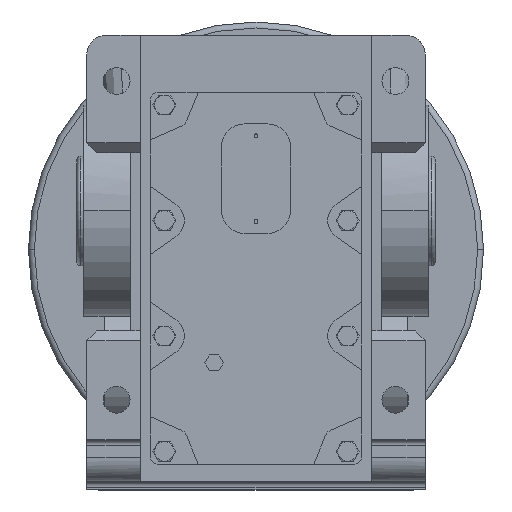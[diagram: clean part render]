
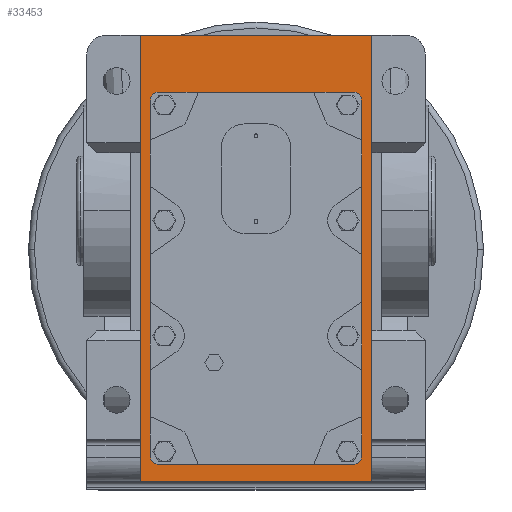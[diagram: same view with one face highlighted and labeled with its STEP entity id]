
A CAD part, top view. The second image highlights one B-rep face of the part: STEP entity #33453.
In plain terms, the highlighted planar face has unit normal (0, 0, 1).
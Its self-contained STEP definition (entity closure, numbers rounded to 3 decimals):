
#5630 = EDGE_CURVE ( 'NONE', #20544, #20666, #8605, .T. ) ;
#5632 = EDGE_CURVE ( 'NONE', #20544, #20556, #8595, .T. ) ;
#5638 = EDGE_CURVE ( 'NONE', #20508, #20556, #8584, .T. ) ;
#5640 = EDGE_CURVE ( 'NONE', #20508, #20541, #8581, .T. ) ;
#5646 = EDGE_CURVE ( 'NONE', #20657, #20541, #8577, .T. ) ;
#5648 = EDGE_CURVE ( 'NONE', #20657, #20540, #8571, .T. ) ;
#5654 = EDGE_CURVE ( 'NONE', #20664, #20540, #8562, .T. ) ;
#5656 = EDGE_CURVE ( 'NONE', #20664, #20666, #8559, .T. ) ;
#8558 = VECTOR ( 'NONE', #32608, 1000. ) ;
#8559 = LINE ( 'NONE', #32585, #8558 ) ;
#8562 = CIRCLE ( 'NONE', #27785, 4. ) ;
#8570 = VECTOR ( 'NONE', #32579, 1000. ) ;
#8571 = LINE ( 'NONE', #32553, #8570 ) ;
#8577 = CIRCLE ( 'NONE', #27784, 4. ) ;
#8580 = VECTOR ( 'NONE', #32511, 1000. ) ;
#8581 = LINE ( 'NONE', #32503, #8580 ) ;
#8584 = CIRCLE ( 'NONE', #27783, 4. ) ;
#8592 = VECTOR ( 'NONE', #32477, 1000. ) ;
#8595 = LINE ( 'NONE', #32457, #8592 ) ;
#8605 = CIRCLE ( 'NONE', #27782, 4. ) ;
#10186 = EDGE_CURVE ( 'NONE', #20705, #20716, #23512, .T. ) ;
#10190 = EDGE_CURVE ( 'NONE', #20903, #20705, #23508, .T. ) ;
#10193 = EDGE_CURVE ( 'NONE', #20716, #21029, #23506, .T. ) ;
#10195 = EDGE_CURVE ( 'NONE', #21029, #20903, #23504, .T. ) ;
#10947 = EDGE_LOOP ( 'NONE', ( #39461, #39463, #39457, #39458, #39453, #39455, #39449, #39451 ) ) ;
#10955 = EDGE_LOOP ( 'NONE', ( #39443, #39447, #39486, #39484 ) ) ;
#20508 = VERTEX_POINT ( 'NONE', #41117 ) ;
#20540 = VERTEX_POINT ( 'NONE', #41181 ) ;
#20541 = VERTEX_POINT ( 'NONE', #41183 ) ;
#20544 = VERTEX_POINT ( 'NONE', #41189 ) ;
#20556 = VERTEX_POINT ( 'NONE', #41213 ) ;
#20657 = VERTEX_POINT ( 'NONE', #41415 ) ;
#20664 = VERTEX_POINT ( 'NONE', #41429 ) ;
#20666 = VERTEX_POINT ( 'NONE', #41433 ) ;
#20705 = VERTEX_POINT ( 'NONE', #41511 ) ;
#20716 = VERTEX_POINT ( 'NONE', #41533 ) ;
#20903 = VERTEX_POINT ( 'NONE', #41793 ) ;
#21029 = VERTEX_POINT ( 'NONE', #41905 ) ;
#23501 = VECTOR ( 'NONE', #35041, 1000. ) ;
#23503 = VECTOR ( 'NONE', #35037, 1000. ) ;
#23504 = LINE ( 'NONE', #35039, #23501 ) ;
#23505 = VECTOR ( 'NONE', #35034, 1000. ) ;
#23506 = LINE ( 'NONE', #35036, #23503 ) ;
#23508 = LINE ( 'NONE', #35032, #23505 ) ;
#23509 = VECTOR ( 'NONE', #35027, 1000. ) ;
#23512 = LINE ( 'NONE', #35025, #23509 ) ;
#26027 = AXIS2_PLACEMENT_3D ( 'NONE', #37480, #37499, #37501 ) ;
#27782 = AXIS2_PLACEMENT_3D ( 'NONE', #32461, #32462, #32463 ) ;
#27783 = AXIS2_PLACEMENT_3D ( 'NONE', #32508, #32509, #32510 ) ;
#27784 = AXIS2_PLACEMENT_3D ( 'NONE', #32559, #32560, #32561 ) ;
#27785 = AXIS2_PLACEMENT_3D ( 'NONE', #32605, #32606, #32607 ) ;
#31872 = FACE_OUTER_BOUND ( 'NONE', #10955, .T. ) ;
#31882 = FACE_BOUND ( 'NONE', #10947, .T. ) ;
#32457 = CARTESIAN_POINT ( 'NONE',  ( 53., -127.5, 74. ) ) ;
#32461 = CARTESIAN_POINT ( 'NONE',  ( -49., -123.5, 74. ) ) ;
#32462 = DIRECTION ( 'NONE',  ( 0., 0., -1. ) ) ;
#32463 = DIRECTION ( 'NONE',  ( 0., -1., 0. ) ) ;
#32477 = DIRECTION ( 'NONE',  ( 1., 0., 0. ) ) ;
#32503 = CARTESIAN_POINT ( 'NONE',  ( 53., -34., 74. ) ) ;
#32508 = CARTESIAN_POINT ( 'NONE',  ( 49., -123.5, 74. ) ) ;
#32509 = DIRECTION ( 'NONE',  ( 0., 0., -1. ) ) ;
#32510 = DIRECTION ( 'NONE',  ( 0., -1., 0. ) ) ;
#32511 = DIRECTION ( 'NONE',  ( 0., 1., 0. ) ) ;
#32553 = CARTESIAN_POINT ( 'NONE',  ( 53., 59.5, 74. ) ) ;
#32559 = CARTESIAN_POINT ( 'NONE',  ( 49., 55.5, 74. ) ) ;
#32560 = DIRECTION ( 'NONE',  ( 0., 0., -1. ) ) ;
#32561 = DIRECTION ( 'NONE',  ( 0., -1., 0. ) ) ;
#32579 = DIRECTION ( 'NONE',  ( -1., 0., 0. ) ) ;
#32585 = CARTESIAN_POINT ( 'NONE',  ( -53., -127.5, 74. ) ) ;
#32605 = CARTESIAN_POINT ( 'NONE',  ( -49., 55.5, 74. ) ) ;
#32606 = DIRECTION ( 'NONE',  ( 0., 0., -1. ) ) ;
#32607 = DIRECTION ( 'NONE',  ( 0., -1., 0. ) ) ;
#32608 = DIRECTION ( 'NONE',  ( 0., -1., 0. ) ) ;
#33453 = ADVANCED_FACE ( 'NONE', ( #31882, #31872 ), #37489, .T. ) ;
#35025 = CARTESIAN_POINT ( 'NONE',  ( -58., -135.832, 74. ) ) ;
#35027 = DIRECTION ( 'NONE',  ( 1., 0., 0. ) ) ;
#35032 = CARTESIAN_POINT ( 'NONE',  ( -58., 88., 74. ) ) ;
#35034 = DIRECTION ( 'NONE',  ( 0., -1., 0. ) ) ;
#35036 = CARTESIAN_POINT ( 'NONE',  ( 58., -135.832, 74. ) ) ;
#35037 = DIRECTION ( 'NONE',  ( 0., 1., 0. ) ) ;
#35039 = CARTESIAN_POINT ( 'NONE',  ( 58., 88., 74. ) ) ;
#35041 = DIRECTION ( 'NONE',  ( -1., 0., 0. ) ) ;
#37480 = CARTESIAN_POINT ( 'NONE',  ( -58., -135.832, 74. ) ) ;
#37489 = PLANE ( 'NONE',  #26027 ) ;
#37499 = DIRECTION ( 'NONE',  ( 0., 0., 1. ) ) ;
#37501 = DIRECTION ( 'NONE',  ( 1., 0., 0. ) ) ;
#39443 = ORIENTED_EDGE ( 'NONE', *, *, #10190, .T. ) ;
#39447 = ORIENTED_EDGE ( 'NONE', *, *, #10186, .T. ) ;
#39449 = ORIENTED_EDGE ( 'NONE', *, *, #5632, .F. ) ;
#39451 = ORIENTED_EDGE ( 'NONE', *, *, #5630, .T. ) ;
#39453 = ORIENTED_EDGE ( 'NONE', *, *, #5640, .F. ) ;
#39455 = ORIENTED_EDGE ( 'NONE', *, *, #5638, .T. ) ;
#39457 = ORIENTED_EDGE ( 'NONE', *, *, #5648, .F. ) ;
#39458 = ORIENTED_EDGE ( 'NONE', *, *, #5646, .T. ) ;
#39461 = ORIENTED_EDGE ( 'NONE', *, *, #5656, .F. ) ;
#39463 = ORIENTED_EDGE ( 'NONE', *, *, #5654, .T. ) ;
#39484 = ORIENTED_EDGE ( 'NONE', *, *, #10195, .T. ) ;
#39486 = ORIENTED_EDGE ( 'NONE', *, *, #10193, .T. ) ;
#41117 = CARTESIAN_POINT ( 'NONE',  ( 53., -123.5, 74. ) ) ;
#41181 = CARTESIAN_POINT ( 'NONE',  ( -49., 59.5, 74. ) ) ;
#41183 = CARTESIAN_POINT ( 'NONE',  ( 53., 55.5, 74. ) ) ;
#41189 = CARTESIAN_POINT ( 'NONE',  ( -49., -127.5, 74. ) ) ;
#41213 = CARTESIAN_POINT ( 'NONE',  ( 49., -127.5, 74. ) ) ;
#41415 = CARTESIAN_POINT ( 'NONE',  ( 49., 59.5, 74. ) ) ;
#41429 = CARTESIAN_POINT ( 'NONE',  ( -53., 55.5, 74. ) ) ;
#41433 = CARTESIAN_POINT ( 'NONE',  ( -53., -123.5, 74. ) ) ;
#41511 = CARTESIAN_POINT ( 'NONE',  ( -58., -135.832, 74. ) ) ;
#41533 = CARTESIAN_POINT ( 'NONE',  ( 58., -135.832, 74. ) ) ;
#41793 = CARTESIAN_POINT ( 'NONE',  ( -58., 88., 74. ) ) ;
#41905 = CARTESIAN_POINT ( 'NONE',  ( 58., 88., 74. ) ) ;
